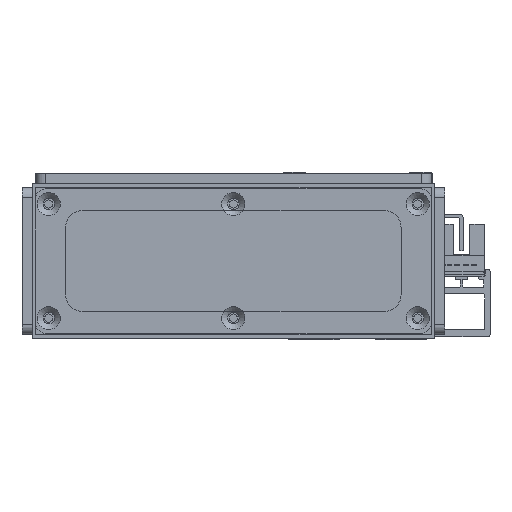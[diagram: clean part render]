
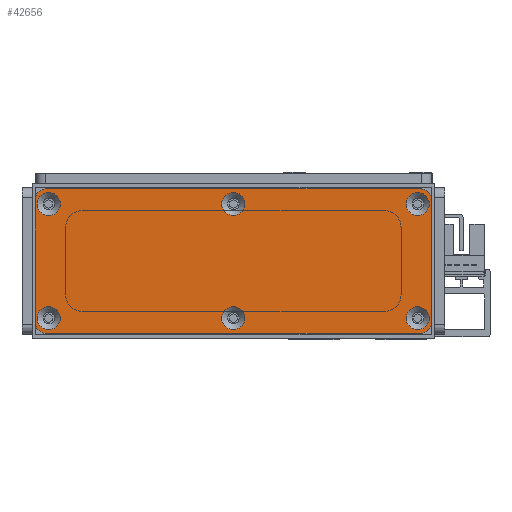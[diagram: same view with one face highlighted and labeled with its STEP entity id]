
A CAD part, front view. The second image highlights one B-rep face of the part: STEP entity #42656.
In plain terms, the highlighted planar face has unit normal (0, -1, 0) as drawn and (0, 0, 1) by its records, which use the part's own axes.
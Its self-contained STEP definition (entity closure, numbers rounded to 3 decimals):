
#811=FACE_BOUND('',#7837,.T.);
#812=FACE_BOUND('',#7838,.T.);
#813=FACE_BOUND('',#7839,.T.);
#814=FACE_BOUND('',#7840,.T.);
#815=FACE_BOUND('',#7841,.T.);
#816=FACE_BOUND('',#7842,.T.);
#2597=PLANE('',#46264);
#5234=FACE_OUTER_BOUND('',#7836,.T.);
#7836=EDGE_LOOP('',(#39771,#39772,#39773,#39774,#39775,#39776,#39777,#39778));
#7837=EDGE_LOOP('',(#39779));
#7838=EDGE_LOOP('',(#39780));
#7839=EDGE_LOOP('',(#39781));
#7840=EDGE_LOOP('',(#39782));
#7841=EDGE_LOOP('',(#39783));
#7842=EDGE_LOOP('',(#39784));
#12459=LINE('',#71289,#17159);
#12463=LINE('',#71301,#17163);
#12467=LINE('',#71313,#17167);
#12471=LINE('',#71323,#17171);
#17159=VECTOR('',#57146,10.);
#17163=VECTOR('',#57158,10.);
#17167=VECTOR('',#57170,10.);
#17171=VECTOR('',#57182,10.);
#18399=CIRCLE('',#46218,3.45);
#18402=CIRCLE('',#46223,3.45);
#18405=CIRCLE('',#46228,3.45);
#18408=CIRCLE('',#46233,3.45);
#18411=CIRCLE('',#46238,3.45);
#18414=CIRCLE('',#46243,3.45);
#18418=CIRCLE('',#46249,3.);
#18420=CIRCLE('',#46253,3.);
#18422=CIRCLE('',#46257,3.);
#18424=CIRCLE('',#46261,3.);
#22239=VERTEX_POINT('',#71217);
#22242=VERTEX_POINT('',#71227);
#22245=VERTEX_POINT('',#71237);
#22248=VERTEX_POINT('',#71247);
#22251=VERTEX_POINT('',#71257);
#22254=VERTEX_POINT('',#71267);
#22259=VERTEX_POINT('',#71280);
#22260=VERTEX_POINT('',#71282);
#22262=VERTEX_POINT('',#71288);
#22264=VERTEX_POINT('',#71294);
#22266=VERTEX_POINT('',#71300);
#22268=VERTEX_POINT('',#71306);
#22270=VERTEX_POINT('',#71312);
#22272=VERTEX_POINT('',#71318);
#28092=EDGE_CURVE('',#22239,#22239,#18399,.T.);
#28097=EDGE_CURVE('',#22242,#22242,#18402,.T.);
#28102=EDGE_CURVE('',#22245,#22245,#18405,.T.);
#28107=EDGE_CURVE('',#22248,#22248,#18408,.T.);
#28112=EDGE_CURVE('',#22251,#22251,#18411,.T.);
#28117=EDGE_CURVE('',#22254,#22254,#18414,.T.);
#28124=EDGE_CURVE('',#22260,#22259,#18418,.T.);
#28127=EDGE_CURVE('',#22262,#22260,#12459,.T.);
#28130=EDGE_CURVE('',#22264,#22262,#18420,.T.);
#28133=EDGE_CURVE('',#22266,#22264,#12463,.T.);
#28136=EDGE_CURVE('',#22268,#22266,#18422,.T.);
#28139=EDGE_CURVE('',#22270,#22268,#12467,.T.);
#28142=EDGE_CURVE('',#22272,#22270,#18424,.T.);
#28145=EDGE_CURVE('',#22259,#22272,#12471,.T.);
#39771=ORIENTED_EDGE('',*,*,#28145,.T.);
#39772=ORIENTED_EDGE('',*,*,#28142,.T.);
#39773=ORIENTED_EDGE('',*,*,#28139,.T.);
#39774=ORIENTED_EDGE('',*,*,#28136,.T.);
#39775=ORIENTED_EDGE('',*,*,#28133,.T.);
#39776=ORIENTED_EDGE('',*,*,#28130,.T.);
#39777=ORIENTED_EDGE('',*,*,#28127,.T.);
#39778=ORIENTED_EDGE('',*,*,#28124,.T.);
#39779=ORIENTED_EDGE('',*,*,#28092,.T.);
#39780=ORIENTED_EDGE('',*,*,#28097,.T.);
#39781=ORIENTED_EDGE('',*,*,#28102,.T.);
#39782=ORIENTED_EDGE('',*,*,#28107,.T.);
#39783=ORIENTED_EDGE('',*,*,#28112,.T.);
#39784=ORIENTED_EDGE('',*,*,#28117,.T.);
#42656=ADVANCED_FACE('',(#5234,#811,#812,#813,#814,#815,#816),#2597,.T.);
#46218=AXIS2_PLACEMENT_3D('',#71218,#57065,#57066);
#46223=AXIS2_PLACEMENT_3D('',#71228,#57077,#57078);
#46228=AXIS2_PLACEMENT_3D('',#71238,#57089,#57090);
#46233=AXIS2_PLACEMENT_3D('',#71248,#57101,#57102);
#46238=AXIS2_PLACEMENT_3D('',#71258,#57113,#57114);
#46243=AXIS2_PLACEMENT_3D('',#71268,#57125,#57126);
#46249=AXIS2_PLACEMENT_3D('',#71283,#57140,#57141);
#46253=AXIS2_PLACEMENT_3D('',#71295,#57152,#57153);
#46257=AXIS2_PLACEMENT_3D('',#71307,#57164,#57165);
#46261=AXIS2_PLACEMENT_3D('',#71319,#57176,#57177);
#46264=AXIS2_PLACEMENT_3D('',#71325,#57185,#57186);
#57065=DIRECTION('center_axis',(0.,0.,-1.));
#57066=DIRECTION('ref_axis',(1.,0.,0.));
#57077=DIRECTION('center_axis',(0.,0.,-1.));
#57078=DIRECTION('ref_axis',(1.,0.,0.));
#57089=DIRECTION('center_axis',(0.,0.,-1.));
#57090=DIRECTION('ref_axis',(1.,0.,0.));
#57101=DIRECTION('center_axis',(0.,0.,-1.));
#57102=DIRECTION('ref_axis',(1.,0.,0.));
#57113=DIRECTION('center_axis',(0.,0.,-1.));
#57114=DIRECTION('ref_axis',(1.,0.,0.));
#57125=DIRECTION('center_axis',(0.,0.,-1.));
#57126=DIRECTION('ref_axis',(1.,0.,0.));
#57140=DIRECTION('center_axis',(0.,0.,1.));
#57141=DIRECTION('ref_axis',(-1.,0.,0.));
#57146=DIRECTION('',(0.,1.,0.));
#57152=DIRECTION('center_axis',(0.,0.,1.));
#57153=DIRECTION('ref_axis',(0.,1.,0.));
#57158=DIRECTION('',(1.,0.,0.));
#57164=DIRECTION('center_axis',(0.,0.,1.));
#57165=DIRECTION('ref_axis',(1.,0.,0.));
#57170=DIRECTION('',(0.,-1.,0.));
#57176=DIRECTION('center_axis',(0.,0.,1.));
#57177=DIRECTION('ref_axis',(0.,-1.,0.));
#57182=DIRECTION('',(-1.,0.,0.));
#57185=DIRECTION('center_axis',(0.,0.,1.));
#57186=DIRECTION('ref_axis',(1.,0.,0.));
#71217=CARTESIAN_POINT('',(110.55,4.5,3.));
#71218=CARTESIAN_POINT('Origin',(114.,4.5,3.));
#71227=CARTESIAN_POINT('',(55.55,38.5,3.));
#71228=CARTESIAN_POINT('Origin',(59.,38.5,3.));
#71237=CARTESIAN_POINT('',(55.55,4.5,3.));
#71238=CARTESIAN_POINT('Origin',(59.,4.5,3.));
#71247=CARTESIAN_POINT('',(0.55,38.5,3.));
#71248=CARTESIAN_POINT('Origin',(4.,38.5,3.));
#71257=CARTESIAN_POINT('',(110.55,38.5,3.));
#71258=CARTESIAN_POINT('Origin',(114.,38.5,3.));
#71267=CARTESIAN_POINT('',(0.55,4.5,3.));
#71268=CARTESIAN_POINT('Origin',(4.,4.5,3.));
#71280=CARTESIAN_POINT('',(115.,43.,3.));
#71282=CARTESIAN_POINT('',(118.,40.,3.));
#71283=CARTESIAN_POINT('Origin',(115.,40.,3.));
#71288=CARTESIAN_POINT('',(118.,3.,3.));
#71289=CARTESIAN_POINT('',(118.,40.,3.));
#71294=CARTESIAN_POINT('',(115.,0.,3.));
#71295=CARTESIAN_POINT('Origin',(115.,3.,3.));
#71300=CARTESIAN_POINT('',(3.,0.,3.));
#71301=CARTESIAN_POINT('',(115.,0.,3.));
#71306=CARTESIAN_POINT('',(0.,3.,3.));
#71307=CARTESIAN_POINT('Origin',(3.,3.,3.));
#71312=CARTESIAN_POINT('',(0.,40.,3.));
#71313=CARTESIAN_POINT('',(0.,3.,3.));
#71318=CARTESIAN_POINT('',(3.,43.,3.));
#71319=CARTESIAN_POINT('Origin',(3.,40.,3.));
#71323=CARTESIAN_POINT('',(3.,43.,3.));
#71325=CARTESIAN_POINT('Origin',(59.,21.5,3.));
